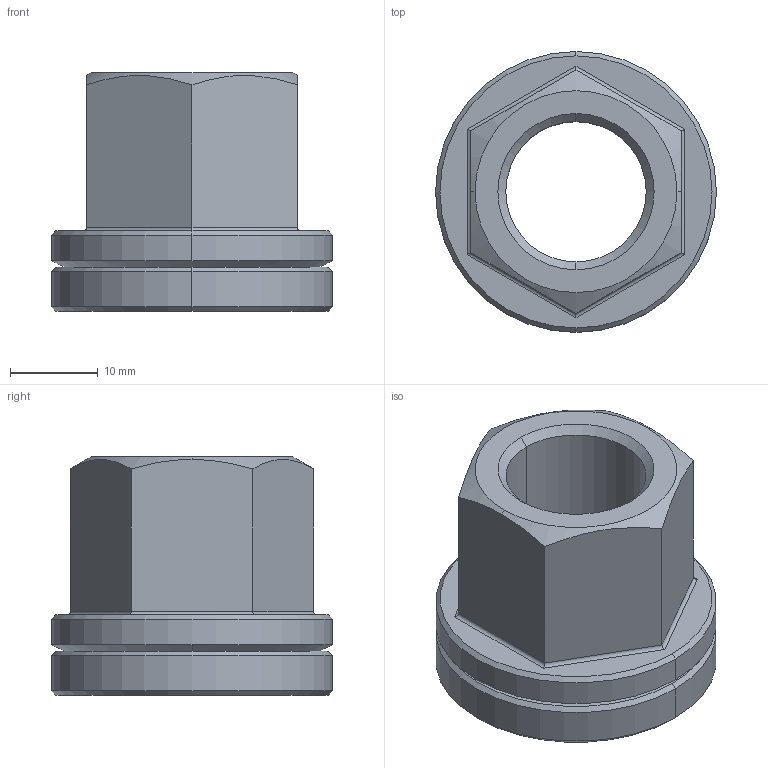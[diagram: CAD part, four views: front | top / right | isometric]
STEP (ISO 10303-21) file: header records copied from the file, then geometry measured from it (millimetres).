
FILE_DESCRIPTION (( 'STEP AP203' ), '1' );
FILE_NAME ('bj739-16001.STEP', '2021-10-25T00:07:12', ( '' ), ( '' ), 'SwSTEP 2.0', 'SolidWorks 2020', '' );
FILE_SCHEMA (( 'CONFIG_CONTROL_DESIGN' ));
Length unit declared in the file: millimetre
Products named in the file (1): bj739-16001
Bounding box: 32 x 32 x 27.15 mm (x, y, z)
Volume: 10473.4 mm3; surface area: 5068.4 mm2
Topology: 1 solids, 1 shells, 39 faces, 86 edges, 52 vertices
Faces by surface type: cylinder 14, cone 12, plane 11, sphere 2
Entity records: 1199 total; most frequent: CARTESIAN_POINT 264, DIRECTION 186, ORIENTED_EDGE 172, EDGE_CURVE 86, AXIS2_PLACEMENT_3D 74, VERTEX_POINT 52, EDGE_LOOP 44, FACE_OUTER_BOUND 39
